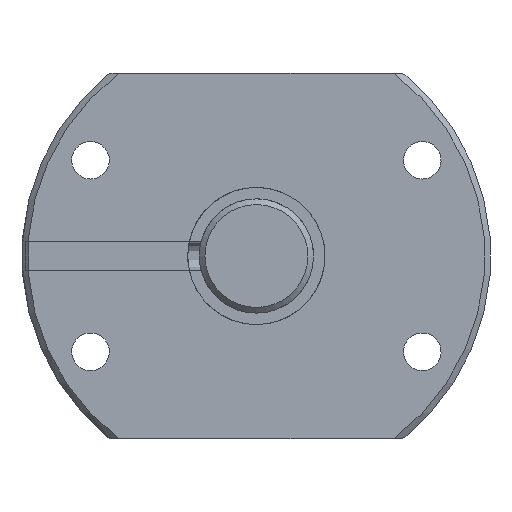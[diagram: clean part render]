
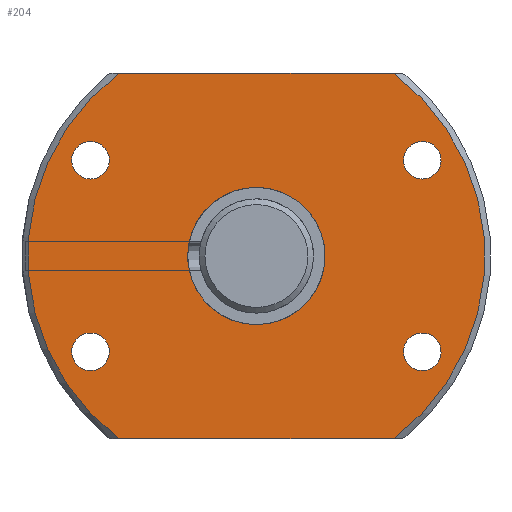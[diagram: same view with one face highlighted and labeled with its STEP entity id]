
A CAD part, left-side view. The second image highlights one B-rep face of the part: STEP entity #204.
In plain terms, the highlighted planar face has unit normal (-1, 0, 0).
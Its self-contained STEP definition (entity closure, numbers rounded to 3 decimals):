
#204 = ADVANCED_FACE( '', ( #311, #312, #313, #314, #315, #316 ), #317, .T. );
#311 = FACE_BOUND( '', #427, .T. );
#312 = FACE_OUTER_BOUND( '', #428, .T. );
#313 = FACE_BOUND( '', #429, .T. );
#314 = FACE_BOUND( '', #430, .T. );
#315 = FACE_BOUND( '', #431, .T. );
#316 = FACE_BOUND( '', #432, .T. );
#317 = PLANE( '', #433 );
#427 = EDGE_LOOP( '', ( #642 ) );
#428 = EDGE_LOOP( '', ( #643, #644, #645, #646 ) );
#429 = EDGE_LOOP( '', ( #647 ) );
#430 = EDGE_LOOP( '', ( #648 ) );
#431 = EDGE_LOOP( '', ( #649 ) );
#432 = EDGE_LOOP( '', ( #650 ) );
#433 = AXIS2_PLACEMENT_3D( '', #651, #652, #653 );
#642 = ORIENTED_EDGE( '', *, *, #718, .T. );
#643 = ORIENTED_EDGE( '', *, *, #738, .F. );
#644 = ORIENTED_EDGE( '', *, *, #703, .F. );
#645 = ORIENTED_EDGE( '', *, *, #709, .F. );
#646 = ORIENTED_EDGE( '', *, *, #739, .F. );
#647 = ORIENTED_EDGE( '', *, *, #695, .T. );
#648 = ORIENTED_EDGE( '', *, *, #697, .T. );
#649 = ORIENTED_EDGE( '', *, *, #699, .T. );
#650 = ORIENTED_EDGE( '', *, *, #701, .T. );
#651 = CARTESIAN_POINT( '', ( 0., 39.975, 0. ) );
#652 = DIRECTION( '', ( -1., 0., 0. ) );
#653 = DIRECTION( '', ( 0., 0., 1. ) );
#695 = EDGE_CURVE( '', #771, #771, #772, .T. );
#697 = EDGE_CURVE( '', #775, #775, #776, .T. );
#699 = EDGE_CURVE( '', #779, #779, #780, .T. );
#701 = EDGE_CURVE( '', #783, #783, #784, .T. );
#703 = EDGE_CURVE( '', #785, #788, #789, .T. );
#709 = EDGE_CURVE( '', #798, #785, #800, .T. );
#718 = EDGE_CURVE( '', #815, #815, #816, .T. );
#738 = EDGE_CURVE( '', #788, #849, #850, .T. );
#739 = EDGE_CURVE( '', #849, #798, #851, .T. );
#771 = VERTEX_POINT( '', #944 );
#772 = CIRCLE( '', #945, 3.3 );
#775 = VERTEX_POINT( '', #948 );
#776 = CIRCLE( '', #949, 3.3 );
#779 = VERTEX_POINT( '', #952 );
#780 = CIRCLE( '', #953, 3.3 );
#783 = VERTEX_POINT( '', #956 );
#784 = CIRCLE( '', #957, 3.3 );
#785 = VERTEX_POINT( '', #958 );
#788 = VERTEX_POINT( '', #964 );
#789 = CIRCLE( '', #965, 39.975 );
#798 = VERTEX_POINT( '', #981 );
#800 = LINE( '', #986, #987 );
#815 = VERTEX_POINT( '', #1041 );
#816 = CIRCLE( '', #1042, 12. );
#849 = VERTEX_POINT( '', #1112 );
#850 = LINE( '', #1113, #1114 );
#851 = CIRCLE( '', #1115, 39.975 );
#944 = CARTESIAN_POINT( '', ( 0., 29.012, -20.05 ) );
#945 = AXIS2_PLACEMENT_3D( '', #1162, #1163, #1164 );
#948 = CARTESIAN_POINT( '', ( 0., -29.012, -20.05 ) );
#949 = AXIS2_PLACEMENT_3D( '', #1168, #1169, #1170 );
#952 = CARTESIAN_POINT( '', ( 0., -29.012, 13.45 ) );
#953 = AXIS2_PLACEMENT_3D( '', #1174, #1175, #1176 );
#956 = CARTESIAN_POINT( '', ( 0., 29.012, 13.45 ) );
#957 = AXIS2_PLACEMENT_3D( '', #1180, #1181, #1182 );
#958 = CARTESIAN_POINT( '', ( 0., 23.958, -32. ) );
#964 = CARTESIAN_POINT( '', ( 0., 23.958, 32. ) );
#965 = AXIS2_PLACEMENT_3D( '', #1183, #1184, #1185 );
#981 = CARTESIAN_POINT( '', ( 0., -23.958, -32. ) );
#986 = CARTESIAN_POINT( '', ( 0., -41.1, -32. ) );
#987 = VECTOR( '', #1190, 1000. );
#1041 = CARTESIAN_POINT( '', ( 0., 0., -12. ) );
#1042 = AXIS2_PLACEMENT_3D( '', #1202, #1203, #1204 );
#1112 = CARTESIAN_POINT( '', ( 0., -23.958, 32. ) );
#1113 = CARTESIAN_POINT( '', ( 0., 41.1, 32. ) );
#1114 = VECTOR( '', #1246, 1000. );
#1115 = AXIS2_PLACEMENT_3D( '', #1247, #1248, #1249 );
#1162 = CARTESIAN_POINT( '', ( 0., 29.012, -16.75 ) );
#1163 = DIRECTION( '', ( 1., 0., 0. ) );
#1164 = DIRECTION( '', ( 0., 0., -1. ) );
#1168 = CARTESIAN_POINT( '', ( 0., -29.012, -16.75 ) );
#1169 = DIRECTION( '', ( 1., 0., 0. ) );
#1170 = DIRECTION( '', ( 0., 0., -1. ) );
#1174 = CARTESIAN_POINT( '', ( 0., -29.012, 16.75 ) );
#1175 = DIRECTION( '', ( 1., 0., 0. ) );
#1176 = DIRECTION( '', ( 0., 0., -1. ) );
#1180 = CARTESIAN_POINT( '', ( 0., 29.012, 16.75 ) );
#1181 = DIRECTION( '', ( 1., 0., 0. ) );
#1182 = DIRECTION( '', ( 0., 0., -1. ) );
#1183 = CARTESIAN_POINT( '', ( 0., 0., 0. ) );
#1184 = DIRECTION( '', ( 1., 0., 0. ) );
#1185 = DIRECTION( '', ( 0., 0., -1. ) );
#1190 = DIRECTION( '', ( 0., 1., 0. ) );
#1202 = CARTESIAN_POINT( '', ( 0., 0., 0. ) );
#1203 = DIRECTION( '', ( 1., 0., 0. ) );
#1204 = DIRECTION( '', ( 0., 0., -1. ) );
#1246 = DIRECTION( '', ( 0., -1., 0. ) );
#1247 = CARTESIAN_POINT( '', ( 0., 0., 0. ) );
#1248 = DIRECTION( '', ( 1., 0., 0. ) );
#1249 = DIRECTION( '', ( 0., 0., -1. ) );
